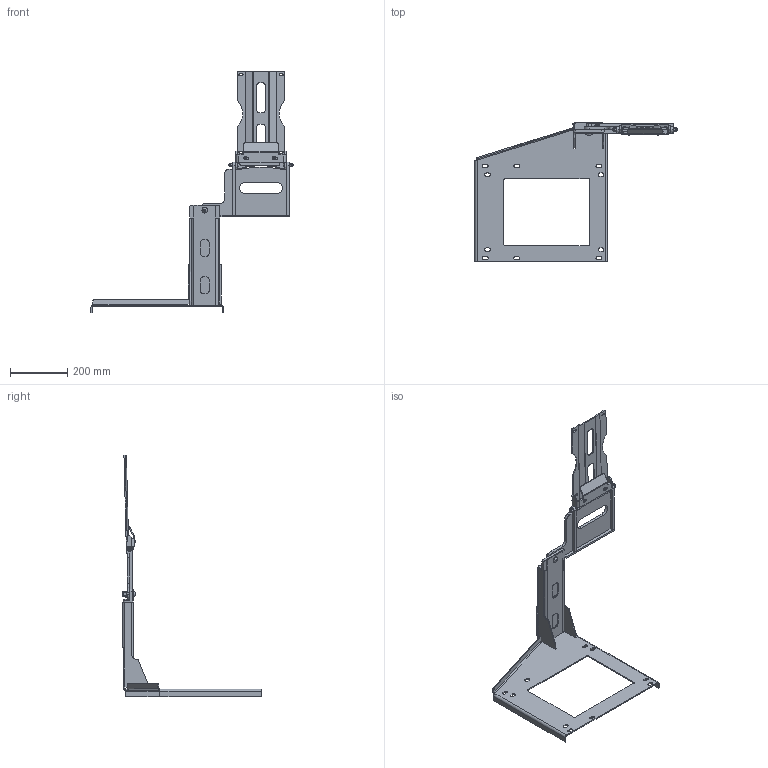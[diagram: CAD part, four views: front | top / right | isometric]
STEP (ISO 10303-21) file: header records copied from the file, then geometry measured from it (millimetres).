
FILE_DESCRIPTION(('STEP AP203'),'1');
FILE_NAME('Z:/10-Iveco/VME VMG/2024 - ACA/Commun VMG VME/Tablettes/Sous traitance/Tablettes 2025-09-22/PLANS/Tablette Passager/81TAB001003A_TABLETTE PASSAGER.step','2026-02-04T10:07:04',(' '),(' '),'Spatial InterOp 3D',' ',' ');
FILE_SCHEMA(('CONFIG_CONTROL_DESIGN'));
Length unit declared in the file: millimetre
Products named in the file (33): 1; 2; 3; 4; 5; 6; 7; 8; 9; 10; 11; 12; 13; 14; 15; 16; 17; 18; 19; 20; 21; 22; 23; 24; 25; 26; 27; 28; 29; 30; 31; 32; 33
Bounding box: 706.4 x 486 x 843.79 mm (x, y, z)
Volume: 1791651.1 mm3; surface area: 830727.1 mm2
Topology: 33 solids, 33 shells, 862 faces, 2231 edges, 1415 vertices
Faces by surface type: plane 524, cylinder 197, cone 62, bspline 53, torus 25, sphere 1
Full cylindrical faces by diameter (mm): 4.2 x2, 5 x2, 5.5 x4, 6.8 x2, 7 x2, 8 x2, 8.2 x4, 8.5 x1, 8.6 x6, 8.9 x2, 10 x2, 10.2 x4, 10.8 x2, 11 x1, 11.8 x2, 12 x1, 13 x2, 16 x7, 20 x2
Entity records: 29270 total; most frequent: CARTESIAN_POINT 7407, ORIENTED_EDGE 4202, DIRECTION 4099, EDGE_CURVE 2101, AXIS2_PLACEMENT_3D 1396, VERTEX_POINT 1396, LINE 1307, VECTOR 1307
